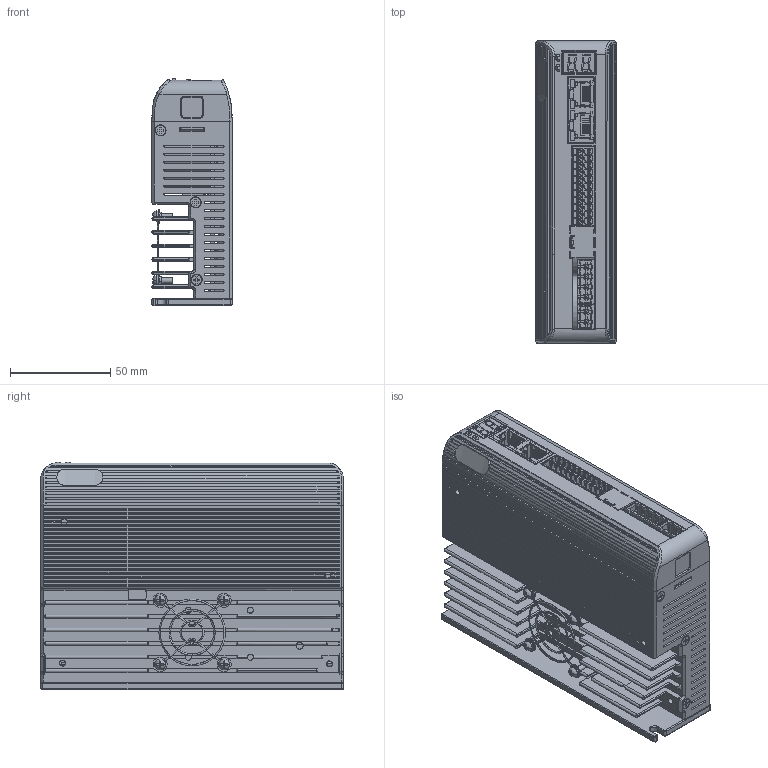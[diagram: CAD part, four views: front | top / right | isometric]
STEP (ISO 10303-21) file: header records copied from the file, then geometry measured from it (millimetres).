
FILE_DESCRIPTION (( 'STEP AP203' ), '1' );
FILE_NAME ('EM3E-A882_3D.STEP', '2019-12-26T06:47:54', ( 'hwtest' ), ( 'Microsoft' ), 'SwSTEP 2.0', 'SolidWorks 2014', '' );
FILE_SCHEMA (( 'CONFIG_CONTROL_DESIGN' ));
Products named in the file (1): EM3E-A882_3D
Bounding box: 40 x 151.1 x 113.37 mm (x, y, z)
Surface area: 202162.2 mm2 (no closed solid volume)
Topology: 0 solids, 16 shells, 6178 faces, 16746 edges, 10723 vertices
Faces by surface type: plane 4311, cylinder 1187, bspline 446, cone 234
Entity records: 227866 total; most frequent: CARTESIAN_POINT 85195, ORIENTED_EDGE 33154, DIRECTION 23364, EDGE_CURVE 16577, VERTEX_POINT 10723, LINE 10086, VECTOR 10086, EDGE_LOOP 6728
